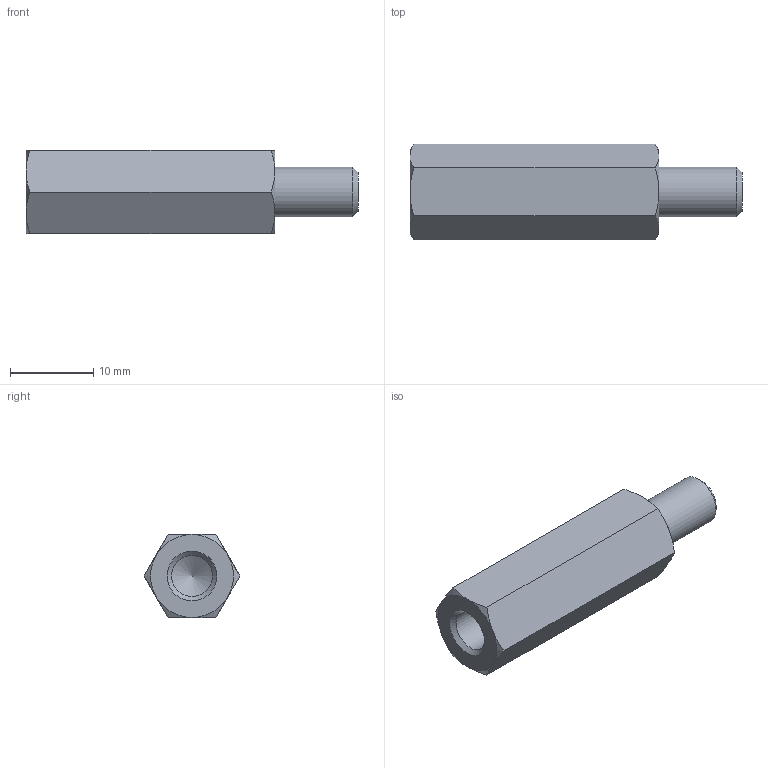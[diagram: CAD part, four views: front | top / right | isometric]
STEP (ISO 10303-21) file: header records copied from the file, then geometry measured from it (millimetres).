
FILE_DESCRIPTION( ( 'STEP AP203' ), '1' );
FILE_NAME( 'C:/Temp/Ganter_Step_05_03_2020/data/3_2/gn6220/gn6220_st/Spacer GN 6220-ST-M6-30-B.stp', '2020-03-13T05:42:47', ( 'License CC BY-ND 4.0' ), ( 'CADENAS' ), ' ', 'PARTsolutions', ' ' );
FILE_SCHEMA( ( 'CONFIG_CONTROL_DESIGN' ) );
Length unit declared in the file: millimetre
Products named in the file (1): _Spacer GN 6220-ST-M6-30-B
Bounding box: 40 x 11.55 x 10 mm (x, y, z)
Volume: 2538.9 mm3; surface area: 1648.3 mm2
Topology: 1 solids, 1 shells, 26 faces, 55 edges, 32 vertices
Faces by surface type: cone 15, plane 9, cylinder 2
Full cylindrical faces by diameter (mm): 4.917 x1, 6 x1
Entity records: 762 total; most frequent: CARTESIAN_POINT 226, DIRECTION 96, ORIENTED_EDGE 96, EDGE_CURVE 48, AXIS2_PLACEMENT_3D 45, EDGE_LOOP 32, VERTEX_POINT 31, FACE_OUTER_BOUND 28
